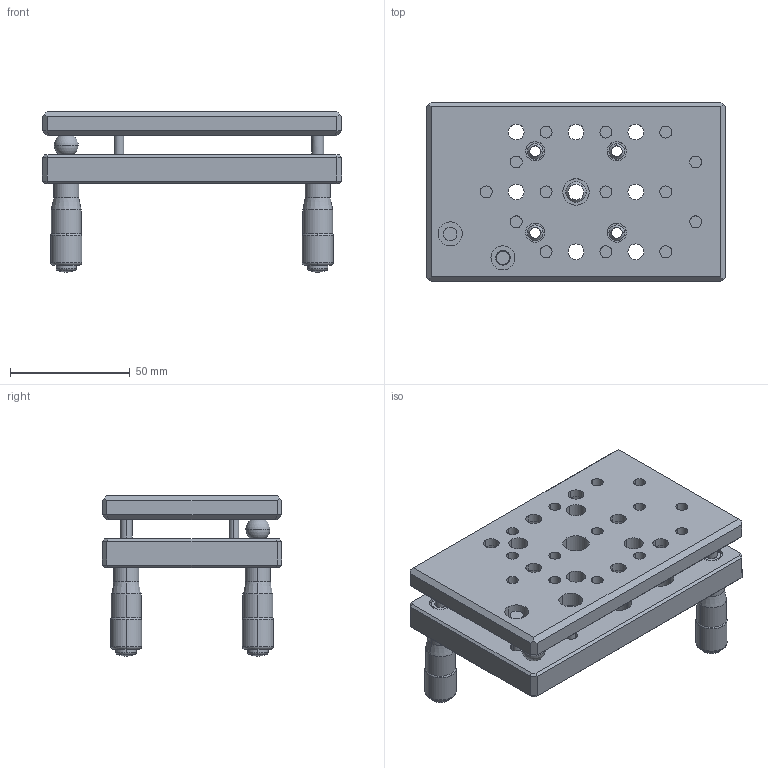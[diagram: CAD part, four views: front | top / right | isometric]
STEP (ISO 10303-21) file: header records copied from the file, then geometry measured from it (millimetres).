
FILE_DESCRIPTION (( 'STEP AP214' ), '1' );
FILE_NAME ('PT-QX02.STEP', '2022-09-17T05:48:41', ( '' ), ( '' ), 'SwSTEP 2.0', 'SolidWorks 2017', '' );
FILE_SCHEMA (( 'AUTOMOTIVE_DESIGN' ));
Length unit declared in the file: millimetre
Products named in the file (1): PT-QX02
Bounding box: 125 x 75 x 67 mm (x, y, z)
Surface area: 56108.1 mm2 (no closed solid volume)
Topology: 0 solids, 12 shells, 273 faces, 705 edges, 456 vertices
Faces by surface type: cylinder 143, plane 69, cone 38, torus 16, sphere 7
Entity records: 9477 total; most frequent: CARTESIAN_POINT 2433, DIRECTION 1593, ORIENTED_EDGE 1320, EDGE_CURVE 695, AXIS2_PLACEMENT_3D 646, VERTEX_POINT 450, EDGE_LOOP 380, CIRCLE 372
